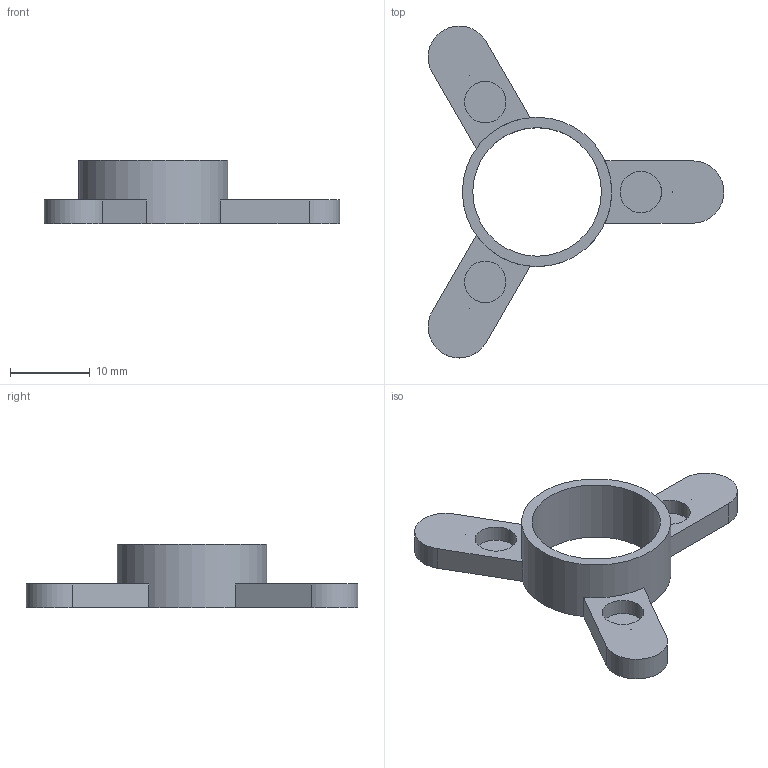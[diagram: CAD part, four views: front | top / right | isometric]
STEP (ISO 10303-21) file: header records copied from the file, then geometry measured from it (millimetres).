
FILE_DESCRIPTION(/* description */ ('','CAx-IF Rec.Pracs.---Representation and Presentation of Product Manufacturing Information (PMI)---4.0---2014-10-13'),/* implementation_level */ '2;1');
FILE_NAME(/* name */ 'spinner2.step',/* time_stamp */ '2025-03-26T17:16:47+05:00',/* author */ (''),/* organization */ (''),/* preprocessor_version */ 'ST-DEVELOPER v20',/* originating_system */ 'Autodesk Translation Framework v13.20.0.188',/* authorisation */ '');
FILE_SCHEMA (('AP242_MANAGED_MODEL_BASED_3D_ENGINEERING_MIM_LF { 1 0 10303 442 1 1 4 }'));
Length unit declared in the file: millimetre
Products named in the file (1): spinner2
Bounding box: 37.05 x 41.57 x 8 mm (x, y, z)
Volume: 1388.2 mm3; surface area: 2225.4 mm2
Topology: 7 solids, 7 shells, 43 faces, 87 edges, 58 vertices
Faces by surface type: cylinder 23, plane 20
Full cylindrical faces by diameter (mm): 5.2 x3, 16.1 x1, 18.7 x1
Entity records: 1202 total; most frequent: DIRECTION 221, CARTESIAN_POINT 189, ORIENTED_EDGE 174, AXIS2_PLACEMENT_3D 90, EDGE_CURVE 87, VERTEX_POINT 58, EDGE_LOOP 57, CIRCLE 46
